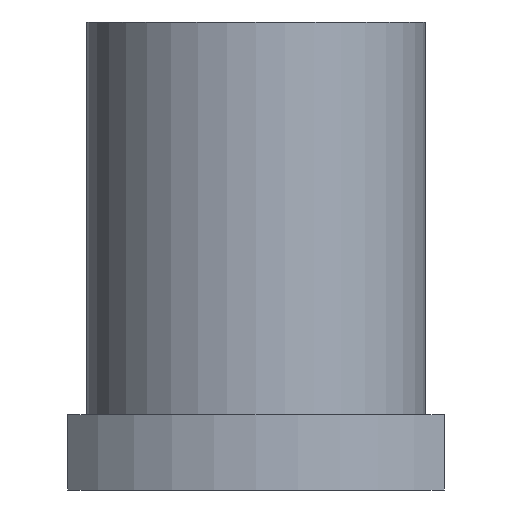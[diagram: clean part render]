
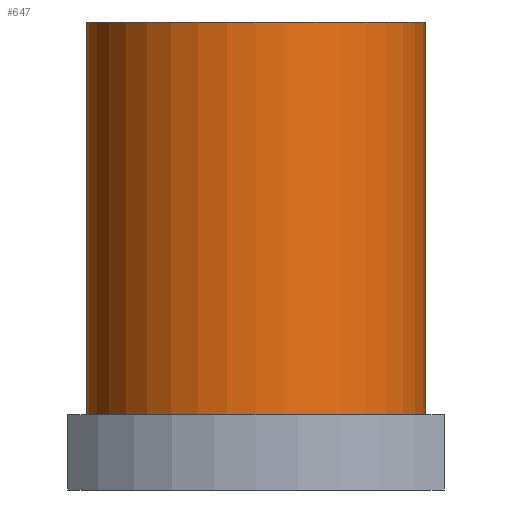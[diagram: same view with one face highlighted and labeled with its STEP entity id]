
A CAD part, front view. The second image highlights one B-rep face of the part: STEP entity #647.
In plain terms, the highlighted cylindrical face has radius 31.5 mm (diameter 63 mm), a partial arc.
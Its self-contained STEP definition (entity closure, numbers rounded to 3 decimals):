
#155=CARTESIAN_POINT('',(0.,0.,87.));
#156=DIRECTION('',(0.,0.,1.));
#157=DIRECTION('',(-1.,0.,0.));
#158=AXIS2_PLACEMENT_3D('',#155,#156,#157);
#175=DIRECTION('',(0.,0.,-1.));
#176=VECTOR('',#175,73.);
#177=CARTESIAN_POINT('',(31.5,0.,87.));
#178=LINE('',#177,#176);
#179=DIRECTION('',(0.,0.,-1.));
#180=VECTOR('',#179,73.);
#181=CARTESIAN_POINT('',(-31.5,0.,87.));
#182=LINE('',#181,#180);
#183=CARTESIAN_POINT('',(0.,0.,14.));
#184=DIRECTION('',(0.,0.,-1.));
#185=DIRECTION('',(1.,0.,0.));
#186=AXIS2_PLACEMENT_3D('',#183,#184,#185);
#413=CARTESIAN_POINT('',(31.5,0.,14.));
#414=CARTESIAN_POINT('',(-31.5,0.,14.));
#415=VERTEX_POINT('',#413);
#416=VERTEX_POINT('',#414);
#417=CARTESIAN_POINT('',(-31.5,0.,87.));
#418=CARTESIAN_POINT('',(31.5,0.,87.));
#419=VERTEX_POINT('',#417);
#420=VERTEX_POINT('',#418);
#633=CARTESIAN_POINT('',(0.,0.,87.));
#634=DIRECTION('',(0.,0.,1.));
#635=DIRECTION('',(1.,0.,0.));
#636=AXIS2_PLACEMENT_3D('',#633,#634,#635);
#637=CYLINDRICAL_SURFACE('',#636,31.5);
#638=ORIENTED_EDGE('',*,*,#622,.T.);
#640=ORIENTED_EDGE('',*,*,#639,.T.);
#642=ORIENTED_EDGE('',*,*,#641,.T.);
#644=ORIENTED_EDGE('',*,*,#643,.F.);
#645=EDGE_LOOP('',(#638,#640,#642,#644));
#646=FACE_OUTER_BOUND('',#645,.F.);
#159=CIRCLE('',#158,31.5);
#187=CIRCLE('',#186,31.5);
#622=EDGE_CURVE('',#419,#420,#159,.T.);
#639=EDGE_CURVE('',#420,#415,#178,.T.);
#641=EDGE_CURVE('',#415,#416,#187,.T.);
#643=EDGE_CURVE('',#419,#416,#182,.T.);
#647=ADVANCED_FACE('',(#646),#637,.T.);
